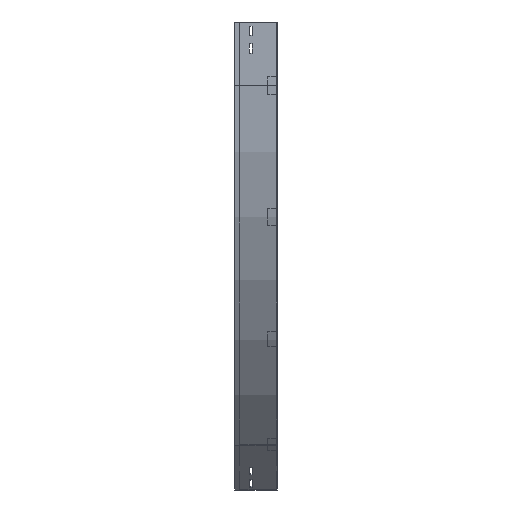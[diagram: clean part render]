
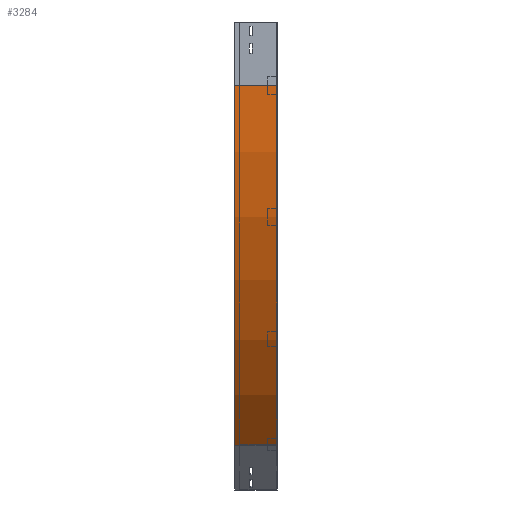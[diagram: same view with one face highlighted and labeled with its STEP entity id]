
A CAD part, left-side view. The second image highlights one B-rep face of the part: STEP entity #3284.
In plain terms, the highlighted cylindrical face has radius 1200 mm (diameter 2400 mm), a partial arc.
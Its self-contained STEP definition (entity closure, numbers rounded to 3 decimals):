
#12 = FACE_OUTER_BOUND ( 'NONE', #2017, .T. ) ;
#54 = AXIS2_PLACEMENT_3D ( 'NONE', #394, #3065, #704 ) ;
#113 = VERTEX_POINT ( 'NONE', #3530 ) ;
#257 = CARTESIAN_POINT ( 'NONE',  ( 0., 0., -150. ) ) ;
#327 = CARTESIAN_POINT ( 'NONE',  ( 1200., 0., -150. ) ) ;
#342 = CARTESIAN_POINT ( 'NONE',  ( 351.472, 0., -998.528 ) ) ;
#394 = CARTESIAN_POINT ( 'NONE',  ( 1200., 0., -150. ) ) ;
#564 = CARTESIAN_POINT ( 'NONE',  ( 0., 0., -150. ) ) ;
#704 = DIRECTION ( 'NONE',  ( -1., 0., 0. ) ) ;
#736 = CIRCLE ( 'NONE', #54, 1200. ) ;
#780 = CARTESIAN_POINT ( 'NONE',  ( 0., 100., -150. ) ) ;
#839 = AXIS2_PLACEMENT_3D ( 'NONE', #3293, #922, #2501 ) ;
#857 = CARTESIAN_POINT ( 'NONE',  ( 351.472, 0., -998.528 ) ) ;
#922 = DIRECTION ( 'NONE',  ( 0., -1., 0. ) ) ;
#989 = VERTEX_POINT ( 'NONE', #342 ) ;
#1105 = DIRECTION ( 'NONE',  ( 0., -1., 0. ) ) ;
#1125 = ORIENTED_EDGE ( 'NONE', *, *, #2954, .T. ) ;
#1180 = CYLINDRICAL_SURFACE ( 'NONE', #1219, 1200. ) ;
#1219 = AXIS2_PLACEMENT_3D ( 'NONE', #327, #3633, #1473 ) ;
#1422 = LINE ( 'NONE', #257, #3472 ) ;
#1444 = LINE ( 'NONE', #857, #3784 ) ;
#1473 = DIRECTION ( 'NONE',  ( 0., 0., -1. ) ) ;
#1487 = EDGE_CURVE ( 'NONE', #2947, #989, #736, .T. ) ;
#1793 = DIRECTION ( 'NONE',  ( 0., -1., 0. ) ) ;
#1839 = CIRCLE ( 'NONE', #839, 1200. ) ;
#2017 = EDGE_LOOP ( 'NONE', ( #2368, #2426, #2210, #1125 ) ) ;
#2210 = ORIENTED_EDGE ( 'NONE', *, *, #2303, .T. ) ;
#2303 = EDGE_CURVE ( 'NONE', #2786, #113, #1839, .T. ) ;
#2368 = ORIENTED_EDGE ( 'NONE', *, *, #1487, .F. ) ;
#2426 = ORIENTED_EDGE ( 'NONE', *, *, #3212, .F. ) ;
#2501 = DIRECTION ( 'NONE',  ( -1., 0., 0. ) ) ;
#2786 = VERTEX_POINT ( 'NONE', #780 ) ;
#2947 = VERTEX_POINT ( 'NONE', #564 ) ;
#2954 = EDGE_CURVE ( 'NONE', #113, #989, #1444, .T. ) ;
#3065 = DIRECTION ( 'NONE',  ( 0., -1., 0. ) ) ;
#3212 = EDGE_CURVE ( 'NONE', #2786, #2947, #1422, .T. ) ;
#3284 = ADVANCED_FACE ( 'NONE', ( #12 ), #1180, .T. ) ;
#3293 = CARTESIAN_POINT ( 'NONE',  ( 1200., 100., -150. ) ) ;
#3472 = VECTOR ( 'NONE', #1105, 1000. ) ;
#3530 = CARTESIAN_POINT ( 'NONE',  ( 351.472, 100., -998.528 ) ) ;
#3633 = DIRECTION ( 'NONE',  ( 0., -1., 0. ) ) ;
#3784 = VECTOR ( 'NONE', #1793, 1000. ) ;
